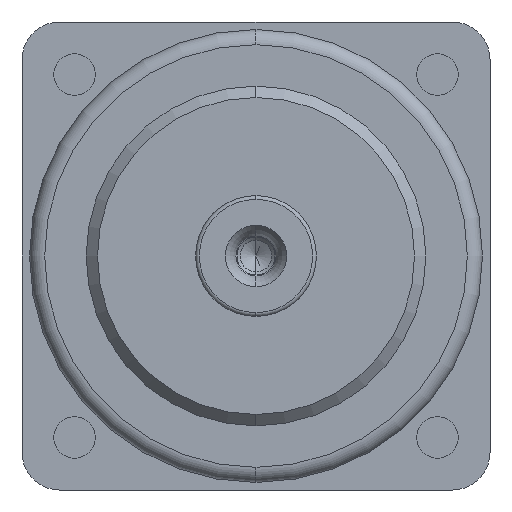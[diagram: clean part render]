
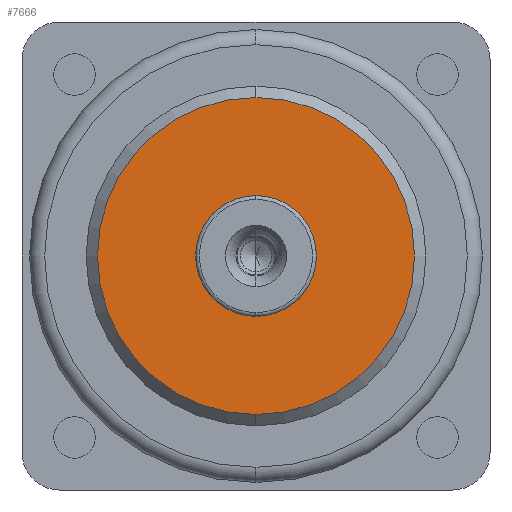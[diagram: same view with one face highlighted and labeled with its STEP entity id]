
A CAD part, left-side view. The second image highlights one B-rep face of the part: STEP entity #7666.
In plain terms, the highlighted planar face has unit normal (-1, 0, 0) as drawn and (0, 0, -1) by its records, which use the part's own axes.
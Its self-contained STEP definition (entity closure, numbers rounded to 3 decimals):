
#4733=CARTESIAN_POINT('',(0.,0.,-20.));
#4734=DIRECTION('',(0.,0.,-1.));
#4735=DIRECTION('',(0.,-1.,0.));
#4736=AXIS2_PLACEMENT_3D('',#4733,#4734,#4735);
#4738=CARTESIAN_POINT('',(0.,0.,-20.));
#4739=DIRECTION('',(0.,0.,1.));
#4740=DIRECTION('',(0.,-1.,0.));
#4741=AXIS2_PLACEMENT_3D('',#4738,#4739,#4740);
#4743=CARTESIAN_POINT('',(0.,0.,-20.));
#4744=DIRECTION('',(0.,0.,1.));
#4745=DIRECTION('',(0.,-1.,0.));
#4746=AXIS2_PLACEMENT_3D('',#4743,#4744,#4745);
#4756=CARTESIAN_POINT('',(0.,0.,-20.));
#4757=DIRECTION('',(0.,0.,-1.));
#4758=DIRECTION('',(0.,-1.,0.));
#4759=AXIS2_PLACEMENT_3D('',#4756,#4757,#4758);
#5143=CARTESIAN_POINT('',(0.,-8.,-20.));
#5145=VERTEX_POINT('',#5143);
#5149=CARTESIAN_POINT('',(0.,8.,-20.));
#5151=VERTEX_POINT('',#5149);
#5155=CARTESIAN_POINT('',(0.,-21.,-20.));
#5156=CARTESIAN_POINT('',(0.,21.,-20.));
#5157=VERTEX_POINT('',#5155);
#5158=VERTEX_POINT('',#5156);
#7651=CARTESIAN_POINT('',(0.,0.,-20.));
#7652=DIRECTION('',(0.,0.,1.));
#7653=DIRECTION('',(0.,1.,0.));
#7654=AXIS2_PLACEMENT_3D('',#7651,#7652,#7653);
#7655=PLANE('',#7654);
#7656=ORIENTED_EDGE('',*,*,#7645,.F.);
#7657=ORIENTED_EDGE('',*,*,#7631,.T.);
#7658=EDGE_LOOP('',(#7656,#7657));
#7659=FACE_OUTER_BOUND('',#7658,.F.);
#7661=ORIENTED_EDGE('',*,*,#7660,.F.);
#7663=ORIENTED_EDGE('',*,*,#7662,.T.);
#7664=EDGE_LOOP('',(#7661,#7663));
#7665=FACE_BOUND('',#7664,.F.);
#7666=ADVANCED_FACE('',(#7659,#7665),#7655,.F.);
#4737=CIRCLE('',#4736,21.);
#4742=CIRCLE('',#4741,21.);
#4747=CIRCLE('',#4746,8.);
#4760=CIRCLE('',#4759,8.);
#7631=EDGE_CURVE('',#5157,#5158,#4742,.T.);
#7645=EDGE_CURVE('',#5157,#5158,#4737,.T.);
#7660=EDGE_CURVE('',#5145,#5151,#4747,.T.);
#7662=EDGE_CURVE('',#5145,#5151,#4760,.T.);
